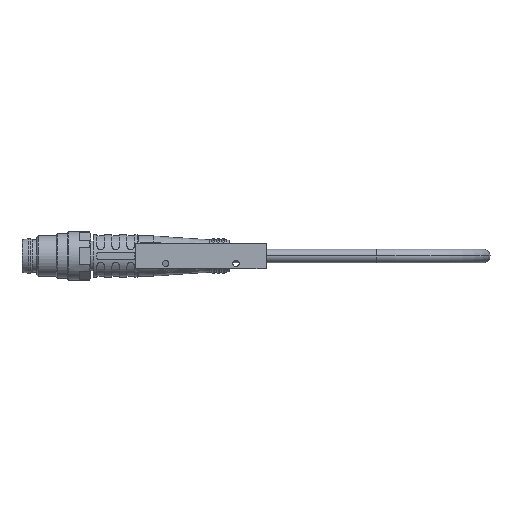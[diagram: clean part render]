
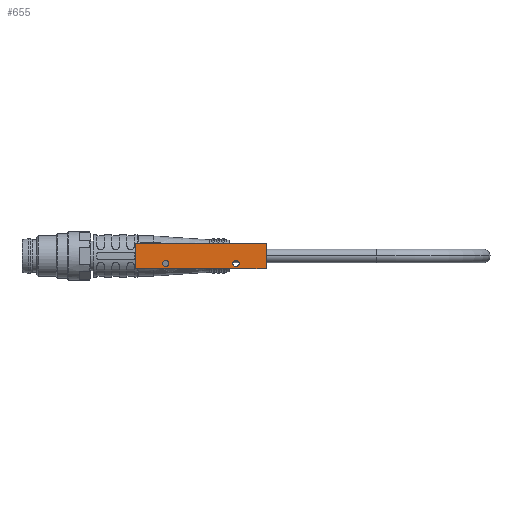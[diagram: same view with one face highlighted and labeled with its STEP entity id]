
A CAD part, left-side view. The second image highlights one B-rep face of the part: STEP entity #655.
In plain terms, the highlighted planar face has unit normal (-1, 0, 0).
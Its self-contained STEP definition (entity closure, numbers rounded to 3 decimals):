
#655=ADVANCED_FACE('',(#1634,#1635,#1636),#1637,.F.);
#1634=FACE_BOUND('',#2938,.T.);
#1635=FACE_BOUND('',#2939,.T.);
#1636=FACE_OUTER_BOUND('',#2940,.T.);
#1637=PLANE('',#2941);
#2938=EDGE_LOOP('',(#4863,#4864));
#2939=EDGE_LOOP('',(#4865,#4866));
#2940=EDGE_LOOP('',(#4867,#4868,#4869,#4870));
#2941=AXIS2_PLACEMENT_3D('',#4871,#4872,#4873);
#4863=ORIENTED_EDGE('',*,*,#8107,.T.);
#4864=ORIENTED_EDGE('',*,*,#7866,.T.);
#4865=ORIENTED_EDGE('',*,*,#8108,.T.);
#4866=ORIENTED_EDGE('',*,*,#8109,.T.);
#4867=ORIENTED_EDGE('',*,*,#8110,.T.);
#4868=ORIENTED_EDGE('',*,*,#8111,.F.);
#4869=ORIENTED_EDGE('',*,*,#8112,.F.);
#4870=ORIENTED_EDGE('',*,*,#8113,.F.);
#4871=CARTESIAN_POINT('',(-2.5,1.0,0.));
#4872=DIRECTION('',(1.0,0.,0.));
#4873=DIRECTION('',(0.,0.,-1.0));
#7866=EDGE_CURVE('',#9424,#9429,#9431,.T.);
#8107=EDGE_CURVE('',#9429,#9424,#9809,.T.);
#8108=EDGE_CURVE('',#9810,#9811,#9812,.T.);
#8109=EDGE_CURVE('',#9811,#9810,#9813,.T.);
#8110=EDGE_CURVE('',#9814,#9815,#9816,.T.);
#8111=EDGE_CURVE('',#9817,#9815,#9818,.T.);
#8112=EDGE_CURVE('',#9819,#9817,#9820,.T.);
#8113=EDGE_CURVE('',#9814,#9819,#9821,.T.);
#9424=VERTEX_POINT('',#11869);
#9429=VERTEX_POINT('',#11875);
#9431=CIRCLE('',#11878,0.626);
#9809=CIRCLE('',#12637,0.626);
#9810=VERTEX_POINT('',#12638);
#9811=VERTEX_POINT('',#12639);
#9812=CIRCLE('',#12640,0.626);
#9813=CIRCLE('',#12641,0.626);
#9814=VERTEX_POINT('',#12642);
#9815=VERTEX_POINT('',#12643);
#9816=LINE('',#12644,#12645);
#9817=VERTEX_POINT('',#12646);
#9818=LINE('',#12647,#12648);
#9819=VERTEX_POINT('',#12649);
#9820=LINE('',#12650,#12651);
#9821=LINE('',#12652,#12653);
#11869=CARTESIAN_POINT('',(-2.5,8.0,-2.126));
#11875=CARTESIAN_POINT('',(-2.5,8.0,-0.874));
#11878=AXIS2_PLACEMENT_3D('',#15412,#15413,#15414);
#12637=AXIS2_PLACEMENT_3D('',#15775,#15776,#15777);
#12638=CARTESIAN_POINT('',(-2.5,-6.0,-0.874));
#12639=CARTESIAN_POINT('',(-2.5,-6.0,-2.126));
#12640=AXIS2_PLACEMENT_3D('',#15778,#15779,#15780);
#12641=AXIS2_PLACEMENT_3D('',#15781,#15782,#15783);
#12642=CARTESIAN_POINT('',(-2.5,14.0,2.5));
#12643=CARTESIAN_POINT('',(-2.5,14.0,-2.5));
#12644=CARTESIAN_POINT('',(-2.5,14.0,0.));
#12645=VECTOR('',#15784,1.0);
#12646=CARTESIAN_POINT('',(-2.5,-12.0,-2.5));
#12647=CARTESIAN_POINT('',(-2.5,1.0,-2.5));
#12648=VECTOR('',#15785,1.0);
#12649=CARTESIAN_POINT('',(-2.5,-12.0,2.5));
#12650=CARTESIAN_POINT('',(-2.5,-12.0,0.));
#12651=VECTOR('',#15786,1.0);
#12652=CARTESIAN_POINT('',(-2.5,1.0,2.5));
#12653=VECTOR('',#15787,1.0);
#15412=CARTESIAN_POINT('',(-2.5,8.0,-1.5));
#15413=DIRECTION('',(1.0,0.,0.));
#15414=DIRECTION('',(0.,0.,-1.0));
#15775=CARTESIAN_POINT('',(-2.5,8.0,-1.5));
#15776=DIRECTION('',(1.0,0.,0.));
#15777=DIRECTION('',(0.,0.,-1.0));
#15778=CARTESIAN_POINT('',(-2.5,-6.0,-1.5));
#15779=DIRECTION('',(1.0,0.,0.));
#15780=DIRECTION('',(0.,0.,-1.0));
#15781=CARTESIAN_POINT('',(-2.5,-6.0,-1.5));
#15782=DIRECTION('',(1.0,0.,0.));
#15783=DIRECTION('',(0.,0.,-1.0));
#15784=DIRECTION('',(0.,0.,-1.0));
#15785=DIRECTION('',(0.0,1.0,0.));
#15786=DIRECTION('',(0.,0.,-1.0));
#15787=DIRECTION('',(0.0,-1.0,0.));
